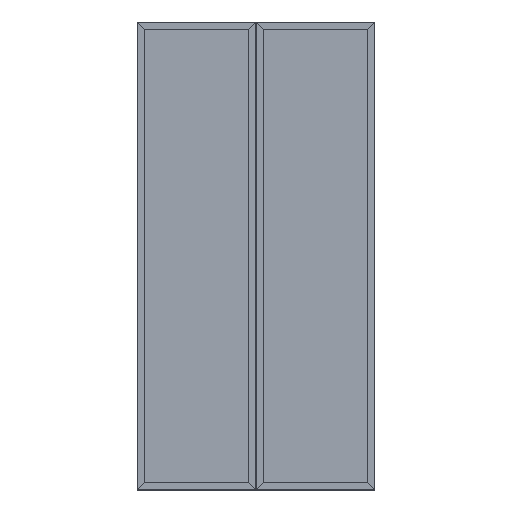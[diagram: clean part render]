
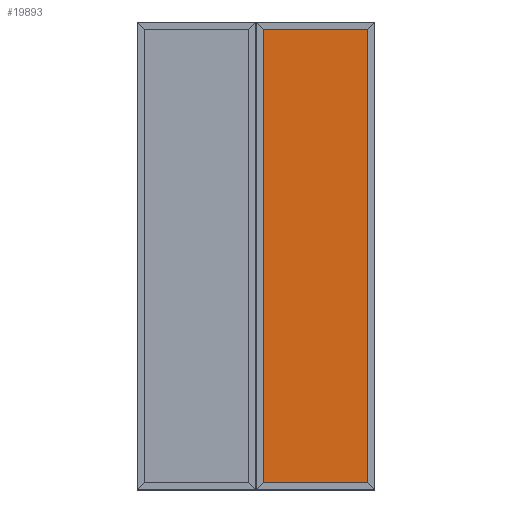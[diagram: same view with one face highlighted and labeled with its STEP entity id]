
A CAD part, top view. The second image highlights one B-rep face of the part: STEP entity #19893.
In plain terms, the highlighted planar face has unit normal (0, 0, 1).
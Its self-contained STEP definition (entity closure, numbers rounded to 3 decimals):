
#169 = CARTESIAN_POINT ( 'NONE',  ( 267.075, -1162.2, -13.25 ) ) ;
#425 = ORIENTED_EDGE ( 'NONE', *, *, #9284, .T. ) ;
#1635 = CARTESIAN_POINT ( 'NONE',  ( -267.075, -1162.2, -13.25 ) ) ;
#1821 = VECTOR ( 'NONE', #16089, 1000. ) ;
#2792 = VECTOR ( 'NONE', #6734, 1000. ) ;
#3462 = EDGE_CURVE ( 'NONE', #19220, #17884, #5907, .T. ) ;
#3877 = AXIS2_PLACEMENT_3D ( 'NONE', #11961, #4237, #10431 ) ;
#4237 = DIRECTION ( 'NONE',  ( 0., 0., -1. ) ) ;
#4464 = VERTEX_POINT ( 'NONE', #15297 ) ;
#4960 = LINE ( 'NONE', #11382, #10560 ) ;
#5219 = ORIENTED_EDGE ( 'NONE', *, *, #6284, .F. ) ;
#5907 = LINE ( 'NONE', #15054, #12713 ) ;
#6199 = EDGE_CURVE ( 'NONE', #4464, #17884, #17720, .T. ) ;
#6284 = EDGE_CURVE ( 'NONE', #11880, #19220, #9877, .T. ) ;
#6687 = DIRECTION ( 'NONE',  ( 0., 1., 0. ) ) ;
#6734 = DIRECTION ( 'NONE',  ( -1., 0., 0. ) ) ;
#7434 = DIRECTION ( 'NONE',  ( 0., 1., 0. ) ) ;
#9105 = PLANE ( 'NONE',  #3877 ) ;
#9284 = EDGE_CURVE ( 'NONE', #11880, #4464, #4960, .T. ) ;
#9877 = LINE ( 'NONE', #19049, #1821 ) ;
#10431 = DIRECTION ( 'NONE',  ( -1., 0., 0. ) ) ;
#10560 = VECTOR ( 'NONE', #6687, 1000. ) ;
#10872 = EDGE_LOOP ( 'NONE', ( #5219, #425, #14523, #13368 ) ) ;
#11382 = CARTESIAN_POINT ( 'NONE',  ( 267.075, 0., -13.25 ) ) ;
#11859 = FACE_OUTER_BOUND ( 'NONE', #10872, .T. ) ;
#11880 = VERTEX_POINT ( 'NONE', #169 ) ;
#11961 = CARTESIAN_POINT ( 'NONE',  ( 0., 0., -13.25 ) ) ;
#12713 = VECTOR ( 'NONE', #7434, 1000. ) ;
#13368 = ORIENTED_EDGE ( 'NONE', *, *, #3462, .F. ) ;
#14523 = ORIENTED_EDGE ( 'NONE', *, *, #6199, .T. ) ;
#15054 = CARTESIAN_POINT ( 'NONE',  ( -267.075, 0., -13.25 ) ) ;
#15297 = CARTESIAN_POINT ( 'NONE',  ( 267.075, 1162.2, -13.25 ) ) ;
#16089 = DIRECTION ( 'NONE',  ( -1., 0., 0. ) ) ;
#16824 = CARTESIAN_POINT ( 'NONE',  ( -267.075, 1162.2, -13.25 ) ) ;
#17720 = LINE ( 'NONE', #19343, #2792 ) ;
#17884 = VERTEX_POINT ( 'NONE', #16824 ) ;
#19049 = CARTESIAN_POINT ( 'NONE',  ( 0., -1162.2, -13.25 ) ) ;
#19220 = VERTEX_POINT ( 'NONE', #1635 ) ;
#19343 = CARTESIAN_POINT ( 'NONE',  ( 0., 1162.2, -13.25 ) ) ;
#19893 = ADVANCED_FACE ( 'NONE', ( #11859 ), #9105, .F. ) ;
